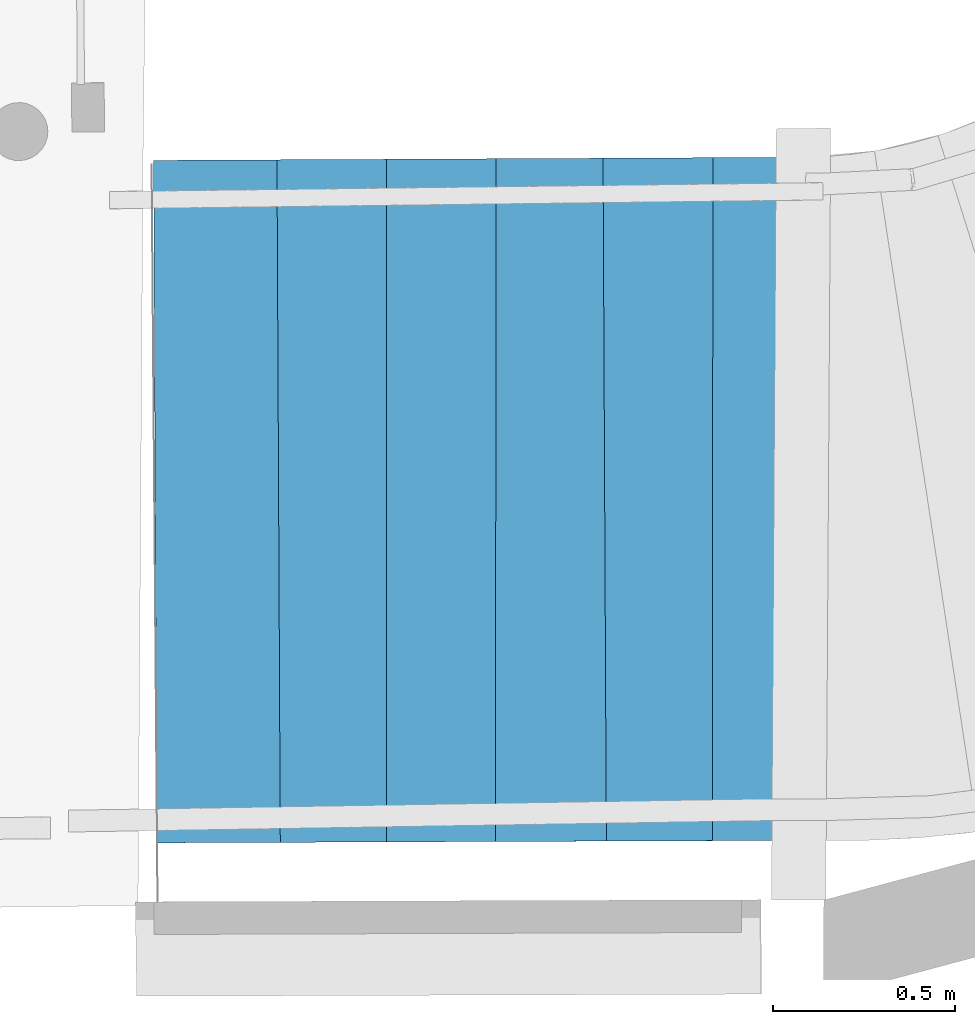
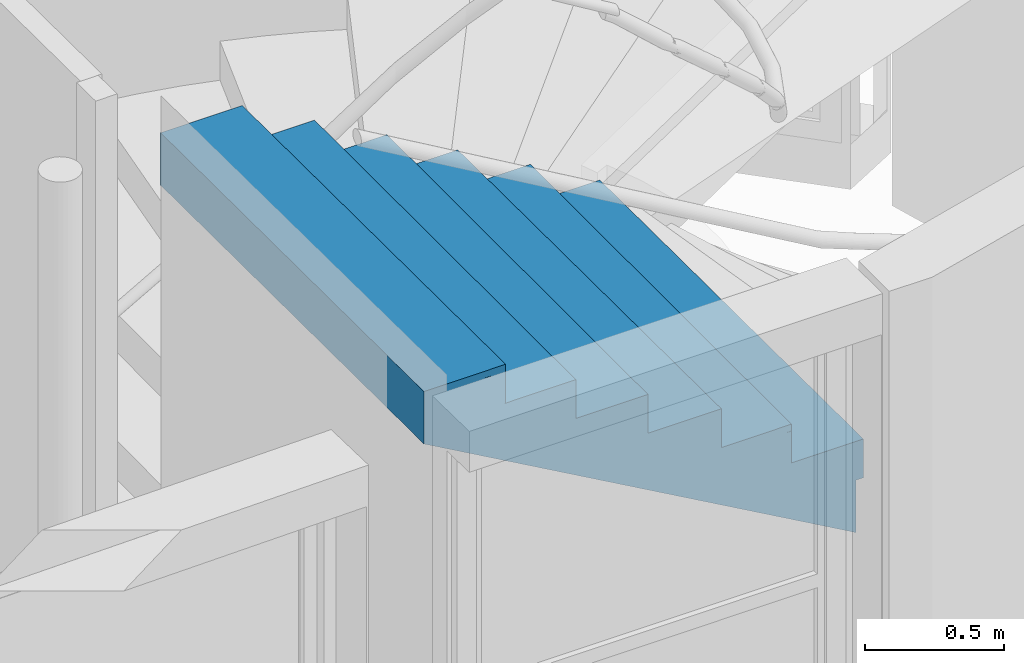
# One storey, part 76 of 97: 1 stair flight, 1 element without a shape of its own.
"""IFC2X3 building model written with IfcOpenShell, lengths in centimetres."""

from ifc_helpers import new_model, entity, si_unit, converted_unit, direction, frame, origin, origin_with_axes, place, context, subcontext, project, spatial, faceted_brep, material, material_list, element, aggregate, save


model = new_model("IFC2X3")

# Units and contexts
model_context = context("Model", 3, precision=0.0001, world=origin(), true_north=direction((0.225632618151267, 0.974212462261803, 0.0)))
body_context = subcontext(model_context, "Body", "Model", "MODEL_VIEW")
ifc_project = project(units=[si_unit("LENGTHUNIT", "METRE", prefix="CENTI"), si_unit("AREAUNIT", "SQUARE_METRE", prefix="CENTI"), si_unit("VOLUMEUNIT", "CUBIC_METRE", prefix="CENTI"), converted_unit("PLANEANGLEUNIT", "DEGREE", entity("IfcRatioMeasure", 0.0174532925), si_unit("PLANEANGLEUNIT", "RADIAN"), dimensions=[0, 0, 0, 0, 0, 0, 0])], contexts=[model_context])

# Site, building, storey
site_placement = place(None, origin_with_axes())
site = spatial("IfcSite", under=ifc_project, at=site_placement, Name="Default Site", CompositionType="ELEMENT")
building_placement = place(site_placement, origin_with_axes())
building = spatial("IfcBuilding", under=site, at=building_placement, Name="Default Building", CompositionType="ELEMENT")
storey_placement = place(building_placement, origin_with_axes())
storey = spatial("IfcBuildingStorey", under=building, at=storey_placement, Name="Rez-de-chaussée", CompositionType="ELEMENT", Elevation=0.0)

# Stair, stair flight
stair_placement = place(storey_placement, frame((1122.40148576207, -332.078331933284, 0.0), z_axis=(0.0, 0.0, 1.0), x_axis=(1.0, 0.0, 0.0)))
stair = element("IfcStair", 1, at=stair_placement, inside=storey, Name="Escalier 718692", ShapeType="NOTDEFINED")
ifc_material_1 = material(Name="Blanc")
ifc_material_2 = material(Name="Carreau décoré (85)")
ifc_material_list = material_list([ifc_material_1, ifc_material_2])
stair_flight_placement = place(stair_placement, frame((179.996528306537, -523.656111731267, 372.41063117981), z_axis=(0.0, 0.0, 1.0), x_axis=(-0.999988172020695, -0.00486372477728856, 0.0)))
stair_flight = element("IfcStairFlight", 2, at=stair_flight_placement, material=ifc_material_list, Name="4294967286", context=body_context, shape_type="Brep", body=[
    faceted_brep([(-3.00000878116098, 0.0, -14.06409740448), (0.0, 0.0, -14.06409740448), (-0.00203411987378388, -188.183473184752, -14.06409740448), (-3.00204266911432, -188.1834255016, -14.06409740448), (0.0, 0.0, -4.44089209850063e-14), (-3.00000878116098, 0.0, -4.44089209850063e-14), (-3.00204266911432, -188.1834255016, -4.44089209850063e-14), (-0.00203411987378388, -188.183473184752, -4.44089209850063e-14), (-3.00204261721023, -188.183425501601, -14.06409740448), (-3.00000883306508, 5.60965597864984e-13, -4.44089209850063e-14), (-3.00000878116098, 9.80504539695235e-10, -14.06409740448), (-3.20462112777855e-19, -9.80504539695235e-10, -4.44089209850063e-14), (-2.04230044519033e-08, 2.2075489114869e-13, -14.06409740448), (-0.00203409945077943, -188.183473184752, -4.44089209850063e-14), (-0.00203411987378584, -188.183473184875, -14.06409740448), (-3.00204266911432, -188.183425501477, -4.44089209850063e-14)], [[[0, 1, 2]], [[2, 3, 0]], [[4, 5, 6]], [[6, 7, 4]], [[5, 0, 8]], [[3, 6, 9]], [[4, 1, 10]], [[0, 5, 11]], [[7, 2, 12]], [[1, 4, 13]], [[6, 3, 14]], [[2, 7, 15]]]),
    faceted_brep([(27.0000140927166, -0.0133512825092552, 3.00002098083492), (30.0000328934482, -0.0308991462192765, 3.00002098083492), (28.9004553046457, -188.183809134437, 3.00002098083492), (25.9005318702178, -188.166261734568, 3.00002098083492), (30.0000328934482, -0.0308991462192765, 17.0641422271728), (27.0000140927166, -0.0133512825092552, 17.0641422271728), (25.9005318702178, -188.166261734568, 17.0641422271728), (28.9004553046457, -188.183809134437, 17.0641422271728), (25.9005318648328, -188.166261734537, 3.00002098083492), (27.0000140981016, -0.0133512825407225, 17.0641422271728), (27.0000140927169, -0.0133512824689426, 3.00002098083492), (30.000032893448, -0.0308991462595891, 17.0641422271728), (30.00003290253, -0.0308991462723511, 3.00002098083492), (28.9004552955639, -188.183809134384, 17.0641422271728), (28.9004553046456, -188.183809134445, 3.00002098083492), (25.9005318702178, -188.166261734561, 17.0641422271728)], [[[0, 1, 2]], [[2, 3, 0]], [[4, 5, 6]], [[6, 7, 4]], [[5, 0, 8]], [[3, 6, 9]], [[4, 1, 10]], [[0, 5, 11]], [[7, 2, 12]], [[1, 4, 13]], [[6, 3, 14]], [[2, 7, 15]]]),
    faceted_brep([(56.1798914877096, -0.0609563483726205, 20.0641393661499), (59.1799002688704, -0.0609563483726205, 20.0641393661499), (59.1777780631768, -188.184108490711, 20.0641393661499), (56.1777692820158, -188.184108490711, 20.0641393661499), (59.1799002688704, -0.0609563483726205, 34.1282367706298), (56.1798914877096, -0.0609563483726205, 34.1282367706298), (56.1777692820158, -188.184108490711, 34.1282367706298), (59.1777780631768, -188.184108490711, 34.1282367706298), (56.1777693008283, -188.184108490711, 20.0641393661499), (56.1798914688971, -0.0609563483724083, 34.1282367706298), (56.1798914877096, -0.060956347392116, 20.0641393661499), (59.1799002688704, -0.0609563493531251, 34.1282367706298), (59.1799002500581, -0.0609563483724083, 20.0641393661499), (59.1777780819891, -188.184108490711, 34.1282367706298), (59.1777780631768, -188.184108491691, 20.0641393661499), (56.1777692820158, -188.18410848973, 34.1282367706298)], [[[0, 1, 2]], [[2, 3, 0]], [[4, 5, 6]], [[6, 7, 4]], [[5, 0, 8]], [[3, 6, 9]], [[4, 1, 10]], [[0, 5, 11]], [[7, 2, 12]], [[1, 4, 13]], [[6, 3, 14]], [[2, 7, 15]]]),
    faceted_brep([(86.7256091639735, -0.0751497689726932, 37.1282577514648), (89.7255339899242, -0.0924110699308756, 37.1282577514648), (88.63798285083, -188.184439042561, 37.1282577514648), (85.6380584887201, -188.167082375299, 37.1282577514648), (89.7255339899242, -0.0924110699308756, 51.1923789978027), (86.7256091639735, -0.0751497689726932, 51.1923789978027), (85.6380584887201, -188.167082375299, 51.1923789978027), (88.63798285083, -188.184439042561, 51.1923789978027), (85.6380584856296, -188.167082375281, 37.1282577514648), (86.7256091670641, -0.075149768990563, 51.1923789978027), (86.7256091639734, -0.0751497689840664, 37.1282577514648), (89.7255339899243, -0.0924110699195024, 51.1923789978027), (89.7255339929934, -0.0924110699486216, 37.1282577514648), (88.6379828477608, -188.184439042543, 51.1923789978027), (88.63798285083, -188.184439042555, 37.1282577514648), (85.6380584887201, -188.167082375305, 51.1923789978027)], [[[0, 1, 2]], [[2, 3, 0]], [[4, 5, 6]], [[6, 7, 4]], [[5, 0, 8]], [[3, 6, 9]], [[4, 1, 10]], [[0, 5, 11]], [[7, 2, 12]], [[1, 4, 13]], [[6, 3, 14]], [[2, 7, 15]]]),
    faceted_brep([(116.769784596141, -0.108743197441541, 54.1923522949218), (119.769721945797, -0.123429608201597, 54.1923522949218), (118.853506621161, -188.184771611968, 54.1923522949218), (115.853568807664, -188.170180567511, 54.1923522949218), (119.769721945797, -0.123429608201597, 68.2564735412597), (116.769784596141, -0.108743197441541, 68.2564735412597), (115.853568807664, -188.170180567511, 68.2564735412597), (118.853506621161, -188.184771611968, 68.2564735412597), (115.853568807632, -188.170180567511, 54.1923522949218), (116.769784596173, -0.108743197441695, 68.2564735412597), (116.769784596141, -0.108743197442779, 54.1923522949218), (119.769721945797, -0.123429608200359, 68.2564735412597), (119.769721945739, -0.123429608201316, 54.1923522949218), (118.853506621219, -188.184771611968, 68.2564735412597)], [[[0, 1, 2]], [[2, 3, 0]], [[4, 5, 6]], [[6, 7, 4]], [[5, 0, 8]], [[3, 6, 9]], [[4, 1, 10]], [[0, 5, 11]], [[7, 2, 12]], [[1, 4, 13]], [[6, 3, 2]], [[2, 7, 6]]]),
    faceted_brep([(145.996310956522, -0.153523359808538, 71.2564945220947), (148.996319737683, -0.153523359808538, 71.2564945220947), (148.994165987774, -188.185121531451, 71.2564945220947), (145.994252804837, -188.18507431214, 71.2564945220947), (148.996319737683, -0.153523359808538, 85.3206157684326), (145.996310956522, -0.153523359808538, 85.3206157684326), (145.994252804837, -188.18507431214, 85.3206157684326), (148.994165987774, -188.185121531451, 85.3206157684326), (145.994252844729, -188.18507431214, 71.2564945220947), (145.996310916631, -0.153523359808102, 85.3206157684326), (145.996310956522, -0.153523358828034, 71.2564945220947), (148.996319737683, -0.153523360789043, 85.3206157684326), (148.996319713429, -0.153523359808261, 71.2564945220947), (148.994166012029, -188.185121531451, 85.3206157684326), (148.994165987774, -188.185121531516, 71.2564945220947), (145.994252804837, -188.185074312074, 85.3206157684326)], [[[0, 1, 2]], [[2, 3, 0]], [[4, 5, 6]], [[6, 7, 4]], [[5, 0, 8]], [[3, 6, 9]], [[4, 1, 10]], [[0, 5, 11]], [[7, 2, 12]], [[1, 4, 13]], [[6, 3, 14]], [[2, 7, 15]]]),
    faceted_brep([(-0.00203411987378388, -188.183473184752, -17.064118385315), (-0.00203411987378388, -188.183473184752, -4.44089209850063e-14), (-2.04230044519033e-08, 2.2075489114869e-13, -4.44089209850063e-14), (0.0, 0.0, -4.44089209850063e-14), (0.0, 0.0, -17.064118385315), (-0.00203409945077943, -188.183473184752, -17.064118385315), (28.9004553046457, -188.183809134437, -4.44089209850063e-14), (28.9004553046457, -188.183809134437, 17.0641422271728), (30.00003290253, -0.0308991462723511, 17.0641422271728), (30.0000328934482, -0.0308991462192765, 17.0641422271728), (30.0000328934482, -0.0308991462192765, -4.44089209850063e-14), (28.9004552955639, -188.183809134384, -4.44089209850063e-14), (59.1777780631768, -188.184108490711, 17.0641422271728), (59.1777780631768, -188.184108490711, 34.1282367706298), (59.1799002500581, -0.0609563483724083, 34.1282367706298), (59.1799002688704, -0.0609563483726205, 34.1282367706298), (59.1799002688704, -0.0609563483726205, 17.0641422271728), (59.1777780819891, -188.184108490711, 17.0641422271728), (88.63798285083, -188.184439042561, 34.1282367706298), (88.63798285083, -188.184439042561, 51.1923789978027), (89.7255339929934, -0.0924110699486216, 51.1923789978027), (89.7255339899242, -0.0924110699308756, 51.1923789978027), (89.7255339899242, -0.0924110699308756, 34.1282367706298), (88.6379828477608, -188.184439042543, 34.1282367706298), (118.853506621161, -188.184771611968, 51.1923789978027), (118.853506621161, -188.184771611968, 68.2564735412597), (119.769721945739, -0.123429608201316, 68.2564735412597), (119.769721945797, -0.123429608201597, 68.2564735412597), (119.769721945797, -0.123429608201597, 51.1923789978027), (118.853506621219, -188.184771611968, 51.1923789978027), (148.994165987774, -188.185121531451, 68.2564735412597), (148.994165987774, -188.185121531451, 85.3206157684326), (148.996319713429, -0.153523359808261, 85.3206157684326), (148.996319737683, -0.153523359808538, 85.3206157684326), (148.996319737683, -0.153523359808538, 68.2564735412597), (148.994166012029, -188.185121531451, 68.2564735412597), (179.9979108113, -188.185473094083, 85.3206157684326), (180.000006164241, -0.185489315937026, 85.3206157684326), (-0.00203411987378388, -188.183473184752, -37.1073722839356), (-2.04230044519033e-08, 2.2075489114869e-13, -17.064118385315), (0.0, 0.0, -37.1073722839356), (-0.00203409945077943, -188.183473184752, -37.1073722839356), (179.9979108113, -188.185473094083, 65.2773380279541), (180.000006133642, -0.185489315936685, 65.2773380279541), (180.000006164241, -0.185489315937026, 65.2773380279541), (179.997910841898, -188.185473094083, 85.3206157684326), (179.997910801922, -188.185473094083, 65.2773380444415), (-0.00203358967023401, -188.183473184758, -37.1073732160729), (-1.33743732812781e-08, 1.44562890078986e-13, -37.1073722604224), (180.000006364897, -0.185489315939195, 65.2773376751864), (148.994165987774, -188.185121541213, 68.2564735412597), (179.9979108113, -188.185473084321, 85.3206157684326), (28.9004553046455, -188.183809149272, -5.50499776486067e-14), (-0.00203411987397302, -188.183473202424, -37.1073722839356), (179.9979108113, -188.185473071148, 65.2773380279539), (59.1777780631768, -188.184108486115, 17.0641422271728), (179.9979108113, -188.185473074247, 65.277338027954), (88.6379828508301, -188.184439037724, 34.1282367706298), (179.9979108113, -188.185473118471, 65.2773380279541), (118.853506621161, -188.184771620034, 51.1923789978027), (179.9979108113, -188.185473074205, 65.2773380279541), (179.9979108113, -188.185473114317, 65.277338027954), (148.994165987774, -188.185121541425, 68.2564735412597), (118.853506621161, -188.184771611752, 51.1923789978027), (88.63798285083, -188.184439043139, 34.1282367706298), (59.1777780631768, -188.184108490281, 17.0641422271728), (28.9004553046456, -188.183809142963, -4.44089209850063e-14), (30.0000328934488, -0.0308991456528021, -4.48546962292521e-14), (180.000006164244, -0.185489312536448, 65.2773380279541), (3.60296824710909e-12, 3.49812751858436e-09, -37.1073722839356), (3.60296824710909e-12, 3.49812751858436e-09, -4.44089209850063e-14), (30.000032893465, -0.0308991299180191, -1.02688124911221e-13), (59.179900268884, -0.0609563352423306, 17.0641422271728), (30.0000328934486, -0.0308991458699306, -4.44089209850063e-14), (30.0000328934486, -0.0308991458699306, 17.0641422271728), (59.1799002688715, -0.060956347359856, 17.0641422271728), (89.725533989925, -0.0924110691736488, 34.1282367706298), (59.179900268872, -0.0609563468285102, 17.0641422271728), (59.179900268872, -0.0609563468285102, 34.1282367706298), (89.7255339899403, -0.0924110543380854, 34.1282367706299), (119.769721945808, -0.123429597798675, 51.1923789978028), (89.725533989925, -0.0924110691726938, 34.1282367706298), (89.725533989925, -0.0924110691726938, 51.1923789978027), (119.769721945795, -0.123429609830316, 51.1923789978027), (119.769721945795, -0.123429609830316, 68.2564735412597), (119.769721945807, -0.123429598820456, 68.2564735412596), (148.996319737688, -0.15352335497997, 68.2564735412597), (148.996319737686, -0.153523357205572, 68.2564735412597), (148.996319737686, -0.153523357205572, 85.3206157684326)], [[[0, 1, 2]], [[3, 4, 5]], [[6, 7, 8]], [[9, 10, 11]], [[12, 13, 14]], [[15, 16, 17]], [[18, 19, 20]], [[21, 22, 23]], [[24, 25, 26]], [[27, 28, 29]], [[30, 31, 32]], [[33, 34, 35]], [[3, 1, 6]], [[6, 10, 3]], [[9, 7, 12]], [[12, 16, 9]], [[15, 13, 18]], [[18, 22, 15]], [[21, 19, 24]], [[24, 28, 21]], [[27, 25, 30]], [[30, 34, 27]], [[31, 36, 37]], [[37, 33, 31]], [[38, 0, 39]], [[4, 40, 41]], [[36, 42, 43]], [[44, 37, 45]], [[44, 46, 47]], [[38, 48, 49]], [[36, 50, 42]], [[30, 51, 31]], [[42, 52, 53]], [[6, 54, 55]], [[12, 56, 57]], [[18, 58, 59]], [[24, 60, 25]], [[25, 61, 62]], [[19, 18, 63]], [[13, 12, 64]], [[7, 6, 65]], [[1, 38, 66]], [[40, 67, 68]], [[10, 69, 70]], [[44, 71, 72]], [[16, 73, 74]], [[44, 75, 76]], [[22, 77, 78]], [[44, 79, 80]], [[28, 81, 82]], [[44, 83, 84]], [[44, 85, 86]], [[44, 87, 37]], [[37, 87, 88]]]),
    faceted_brep([(-2.99999393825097, 0.00305172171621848, 3.00002098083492), (-3.00204266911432, -188.1834255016, 3.00002098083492), (28.9004553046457, -188.183809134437, 3.00002098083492), (30.0000328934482, -0.0308991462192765, 3.00002098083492), (28.9004553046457, -188.183809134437, -4.44089209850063e-14), (-3.00204266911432, -188.1834255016, -4.44089209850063e-14), (-2.99999393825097, 0.00305172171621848, -4.44089209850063e-14), (30.0000328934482, -0.0308991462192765, -4.44089209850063e-14), (-2.99999399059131, 0.00305172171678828, 3.00002098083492), (-3.00204261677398, -188.183425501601, -4.44089209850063e-14), (-3.00204266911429, -188.183425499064, 3.00002098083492), (28.9004553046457, -188.183809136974, -4.44089209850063e-14), (28.9004552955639, -188.183809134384, 3.00002098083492), (30.00003290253, -0.0308991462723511, -4.44089209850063e-14), (30.0000328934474, -0.0308991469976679, 3.00002098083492), (-2.99999393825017, 0.00305172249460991, -4.44089209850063e-14)], [[[0, 1, 2]], [[2, 3, 0]], [[4, 5, 6]], [[6, 7, 4]], [[5, 1, 8]], [[0, 6, 9]], [[4, 2, 10]], [[1, 5, 11]], [[7, 3, 12]], [[2, 4, 13]], [[6, 0, 14]], [[3, 7, 15]]]),
    faceted_brep([(26.9999435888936, -0.0278469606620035, 20.0641393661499), (25.9003513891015, -188.183760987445, 20.0641393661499), (59.1777780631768, -188.184108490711, 20.0641393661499), (59.1799002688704, -0.0609563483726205, 20.0641393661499), (59.1777780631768, -188.184108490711, 17.0641422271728), (25.9003513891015, -188.183760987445, 17.0641422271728), (26.9999435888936, -0.0278469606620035, 17.0641422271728), (59.1799002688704, -0.0609563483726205, 17.0641422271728), (26.9999435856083, -0.0278469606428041, 20.0641393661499), (25.9003513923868, -188.183760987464, 17.0641422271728), (25.9003513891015, -188.183760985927, 20.0641393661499), (59.1777780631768, -188.184108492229, 17.0641422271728), (59.1777780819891, -188.184108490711, 20.0641393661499), (59.1799002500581, -0.0609563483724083, 17.0641422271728), (59.1799002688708, -0.0609563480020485, 20.0641393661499), (26.9999435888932, -0.0278469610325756, 17.0641422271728)], [[[0, 1, 2]], [[2, 3, 0]], [[4, 5, 6]], [[6, 7, 4]], [[5, 1, 8]], [[0, 6, 9]], [[4, 2, 10]], [[1, 5, 11]], [[7, 3, 12]], [[2, 4, 13]], [[6, 0, 14]], [[3, 7, 15]]]),
    faceted_brep([(56.1798914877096, -0.0609563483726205, 37.1282577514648), (56.1777692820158, -188.184108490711, 37.1282577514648), (88.63798285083, -188.184439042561, 37.1282577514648), (89.7255339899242, -0.0924110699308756, 37.1282577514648), (88.63798285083, -188.184439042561, 34.1282367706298), (56.1777692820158, -188.184108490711, 34.1282367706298), (56.1798914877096, -0.0609563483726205, 34.1282367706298), (89.7255339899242, -0.0924110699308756, 34.1282367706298), (56.1798914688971, -0.0609563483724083, 37.1282577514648), (56.1777693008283, -188.184108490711, 34.1282367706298), (56.1777692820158, -188.184108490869, 37.1282577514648), (88.63798285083, -188.184439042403, 34.1282367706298), (88.6379828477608, -188.184439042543, 37.1282577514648), (89.7255339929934, -0.0924110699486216, 34.1282367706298), (89.7255339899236, -0.0924110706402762, 37.1282577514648), (56.1798914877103, -0.0609563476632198, 34.1282367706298)], [[[0, 1, 2]], [[2, 3, 0]], [[4, 5, 6]], [[6, 7, 4]], [[5, 1, 8]], [[0, 6, 9]], [[4, 2, 10]], [[1, 5, 11]], [[7, 3, 12]], [[2, 4, 13]], [[6, 0, 14]], [[3, 7, 15]]]),
    faceted_brep([(86.7255400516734, -0.0893593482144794, 54.1923522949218), (85.6378787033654, -188.18443857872, 54.1923522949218), (118.853506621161, -188.184771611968, 54.1923522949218), (119.769721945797, -0.123429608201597, 54.1923522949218), (118.853506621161, -188.184771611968, 51.1923789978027), (85.6378787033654, -188.18443857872, 51.1923789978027), (86.7255400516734, -0.0893593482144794, 51.1923789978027), (119.769721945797, -0.123429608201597, 51.1923789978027), (86.725540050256, -0.0893593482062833, 54.1923522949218), (85.6378787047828, -188.184438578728, 51.1923789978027), (85.6378787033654, -188.18443858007, 54.1923522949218), (118.853506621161, -188.184771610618, 51.1923789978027), (118.853506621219, -188.184771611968, 54.1923522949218), (119.769721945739, -0.123429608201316, 51.1923789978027), (119.769721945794, -0.123429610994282, 54.1923522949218), (86.7255400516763, -0.0893593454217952, 51.1923789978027)], [[[0, 1, 2]], [[2, 3, 0]], [[4, 5, 6]], [[6, 7, 4]], [[5, 1, 8]], [[0, 6, 9]], [[4, 2, 10]], [[1, 5, 11]], [[7, 3, 12]], [[2, 4, 13]], [[6, 0, 14]], [[3, 7, 15]]]),
    faceted_brep([(116.769728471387, -0.120282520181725, 71.2564945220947), (115.85349784, -188.184771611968, 71.2564945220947), (148.994165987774, -188.185121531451, 71.2564945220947), (148.996319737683, -0.153523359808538, 71.2564945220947), (148.994165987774, -188.185121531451, 68.2564735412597), (115.85349784, -188.184771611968, 68.2564735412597), (116.769728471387, -0.120282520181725, 68.2564735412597), (148.996319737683, -0.153523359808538, 68.2564735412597), (116.769728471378, -0.120282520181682, 71.2564945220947), (115.853497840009, -188.184771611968, 68.2564735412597), (115.85349784, -188.184771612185, 71.2564945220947), (148.994165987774, -188.185121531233, 68.2564735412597), (148.994166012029, -188.185121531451, 71.2564945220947), (148.996319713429, -0.153523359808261, 68.2564735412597), (148.99631973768, -0.153523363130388, 71.2564945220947), (116.769728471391, -0.120282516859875, 68.2564735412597)], [[[0, 1, 2]], [[2, 3, 0]], [[4, 5, 6]], [[6, 7, 4]], [[5, 1, 8]], [[0, 6, 9]], [[4, 2, 10]], [[1, 5, 11]], [[7, 3, 12]], [[2, 4, 13]], [[6, 0, 14]], [[3, 7, 15]]]),
    faceted_brep([(145.994252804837, -188.18507431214, 88.3205890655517), (179.9979108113, -188.185473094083, 88.3205890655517), (180.000006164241, -0.185489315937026, 88.3205890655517), (145.996310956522, -0.153523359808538, 88.3205890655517), (180.000006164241, -0.185489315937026, 85.3206157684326), (179.9979108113, -188.185473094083, 85.3206157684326), (145.994252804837, -188.18507431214, 85.3206157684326), (145.996310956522, -0.153523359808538, 85.3206157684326), (145.996310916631, -0.153523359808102, 88.3205890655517), (145.994252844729, -188.18507431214, 85.3206157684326), (145.994252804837, -188.18507430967, 88.3205890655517), (179.9979108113, -188.185473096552, 85.3206157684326), (179.997910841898, -188.185473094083, 88.3205890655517), (180.000006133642, -0.185489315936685, 85.3206157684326), (180.000006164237, -0.18548931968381, 88.3205890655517), (145.996310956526, -0.153523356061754, 85.3206157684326)], [[[0, 1, 2]], [[2, 3, 0]], [[4, 5, 6]], [[6, 7, 4]], [[6, 0, 8]], [[3, 7, 9]], [[5, 1, 10]], [[0, 6, 11]], [[4, 2, 12]], [[1, 5, 13]], [[7, 3, 14]], [[2, 4, 15]]]),
])
aggregate(stair, [stair_flight])

save(model, "model.ifc")
